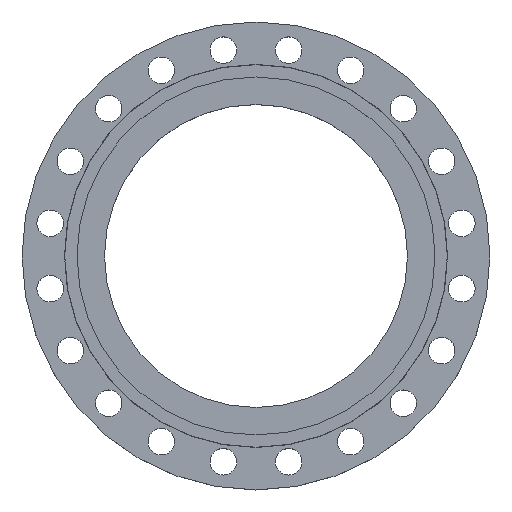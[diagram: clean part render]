
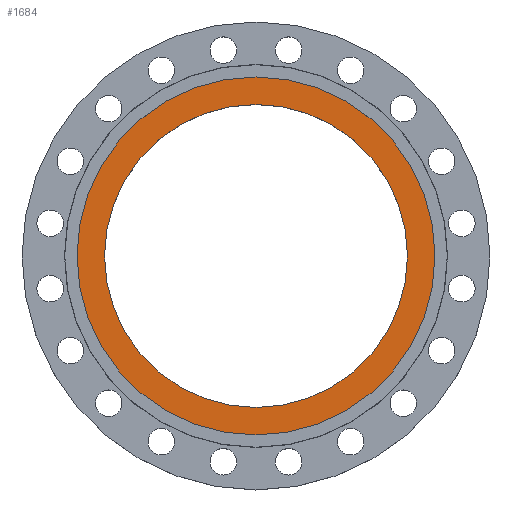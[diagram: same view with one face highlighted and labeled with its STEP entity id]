
A CAD part, top view. The second image highlights one B-rep face of the part: STEP entity #1684.
In plain terms, the highlighted planar face has unit normal (0, 0, 1).
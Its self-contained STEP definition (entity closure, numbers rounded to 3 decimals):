
#29 = DIRECTION ( 'NONE',  ( 1., 0., 0. ) ) ;
#30 = DIRECTION ( 'NONE',  ( 0., 0., 1. ) ) ;
#31 = CARTESIAN_POINT ( 'NONE',  ( 262., 0., -5. ) ) ;
#34 = PLANE ( 'NONE',  #156 ) ;
#37 = FACE_OUTER_BOUND ( 'NONE', #1800, .T. ) ;
#38 = AXIS2_PLACEMENT_3D ( 'NONE', #313, #312, #309 ) ;
#39 = FACE_BOUND ( 'NONE', #1736, .T. ) ;
#65 = DIRECTION ( 'NONE',  ( 1., 0., 0. ) ) ;
#66 = DIRECTION ( 'NONE',  ( 0., 0., 1. ) ) ;
#67 = CARTESIAN_POINT ( 'NONE',  ( 0., 0., -5. ) ) ;
#156 = AXIS2_PLACEMENT_3D ( 'NONE', #31, #30, #29 ) ;
#181 = AXIS2_PLACEMENT_3D ( 'NONE', #1545, #1912, #519 ) ;
#279 = CARTESIAN_POINT ( 'NONE',  ( -221.752, 0., -5. ) ) ;
#309 = DIRECTION ( 'NONE',  ( -1., 0., 0. ) ) ;
#312 = DIRECTION ( 'NONE',  ( 0., 0., -1. ) ) ;
#313 = CARTESIAN_POINT ( 'NONE',  ( 0., 0., -5. ) ) ;
#351 = DIRECTION ( 'NONE',  ( 0., 0., 1. ) ) ;
#415 = AXIS2_PLACEMENT_3D ( 'NONE', #1795, #351, #1172 ) ;
#418 = CIRCLE ( 'NONE', #415, 221.752 ) ;
#519 = DIRECTION ( 'NONE',  ( -1., 0., 0. ) ) ;
#745 = CIRCLE ( 'NONE', #181, 262. ) ;
#998 = CARTESIAN_POINT ( 'NONE',  ( 221.752, 0., -5. ) ) ;
#1015 = CARTESIAN_POINT ( 'NONE',  ( -262., 0., -5. ) ) ;
#1172 = DIRECTION ( 'NONE',  ( 1., 0., 0. ) ) ;
#1197 = CARTESIAN_POINT ( 'NONE',  ( 262., 0., -5. ) ) ;
#1278 = ORIENTED_EDGE ( 'NONE', *, *, #1745, .F. ) ;
#1281 = ORIENTED_EDGE ( 'NONE', *, *, #1397, .F. ) ;
#1282 = ORIENTED_EDGE ( 'NONE', *, *, #1646, .F. ) ;
#1283 = ORIENTED_EDGE ( 'NONE', *, *, #1785, .F. ) ;
#1397 = EDGE_CURVE ( 'NONE', #1887, #1842, #1503, .T. ) ;
#1441 = VERTEX_POINT ( 'NONE', #279 ) ;
#1503 = CIRCLE ( 'NONE', #38, 262. ) ;
#1545 = CARTESIAN_POINT ( 'NONE',  ( 0., 0., -5. ) ) ;
#1587 = CIRCLE ( 'NONE', #1592, 221.752 ) ;
#1592 = AXIS2_PLACEMENT_3D ( 'NONE', #67, #66, #65 ) ;
#1646 = EDGE_CURVE ( 'NONE', #1441, #1870, #1587, .T. ) ;
#1684 = ADVANCED_FACE ( 'NONE', ( #39, #37 ), #34, .T. ) ;
#1736 = EDGE_LOOP ( 'NONE', ( #1283, #1282 ) ) ;
#1745 = EDGE_CURVE ( 'NONE', #1842, #1887, #745, .T. ) ;
#1785 = EDGE_CURVE ( 'NONE', #1870, #1441, #418, .T. ) ;
#1795 = CARTESIAN_POINT ( 'NONE',  ( 0., 0., -5. ) ) ;
#1800 = EDGE_LOOP ( 'NONE', ( #1281, #1278 ) ) ;
#1842 = VERTEX_POINT ( 'NONE', #1197 ) ;
#1870 = VERTEX_POINT ( 'NONE', #998 ) ;
#1887 = VERTEX_POINT ( 'NONE', #1015 ) ;
#1912 = DIRECTION ( 'NONE',  ( 0., 0., -1. ) ) ;
